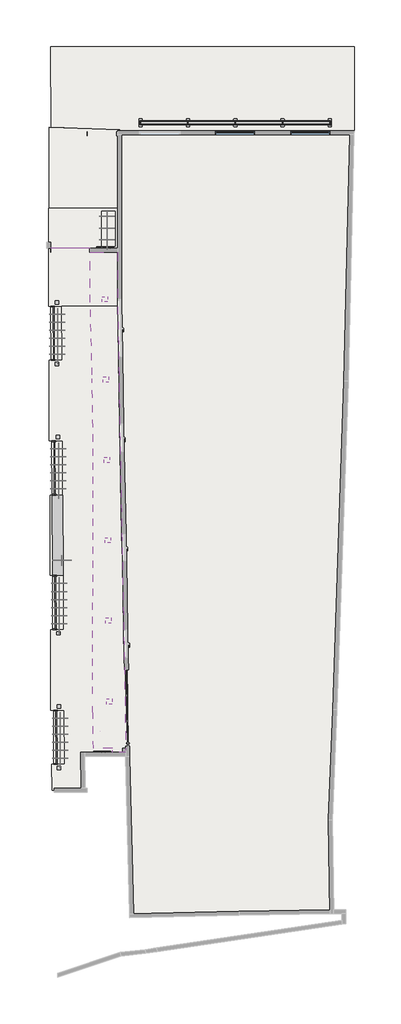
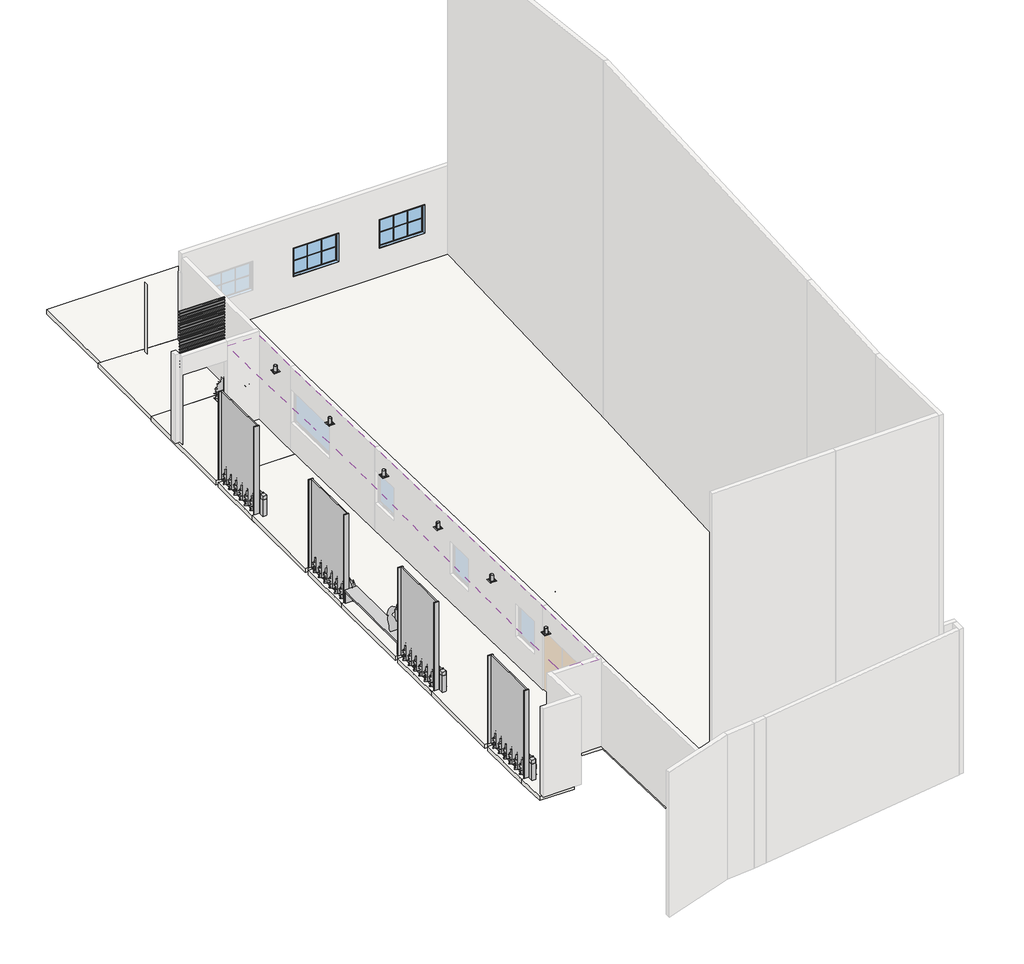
# One storey, part 2 of 2: 28 geographic elements, 13 light fixtures, 7 proxies, 7 slabs, 2 furniture elements, 2 windows, 1 covering.
"""IFC4 building model written with IfcOpenShell, lengths in millimetres."""

from ifc_helpers import new_model, si_unit, point, frame, frame_2d, origin, place, context, project, spatial, polyline, circle_curve, trimmed, segment, composite_curve, outline, extrude, transform, mapped, element, save
from components import generic_models_df8df36a, generic_models_93583ba9, generic_models_38a1cd1e, generic_models_123b7c30, generic_models_0f655083, brise_soleil_brise_soleil_b8130995, vidro_preto_vidro_preto_6965ab44, furniture_6839242c, geographic_element_40c43d6f, geographic_element_03ca2083, light_fixture_30efc9ad, light_fixture_9f0ce8a0, light_fixture_120v_2dcb9a91, light_fixture_200x200x191mm_86722caf, janela_madeira_1_50_x_1_10_0449b646

model = new_model("IFC4")

# Units and contexts
model_context = context("Model", 3, world=origin())
ifc_project = project(units=[si_unit("LENGTHUNIT", "METRE", prefix="MILLI")], contexts=[model_context])

# Site, building, storey
site = spatial("IfcSite", under=ifc_project)
building = spatial("IfcBuilding", under=site)
storey = spatial("IfcBuildingStorey", under=building, Name="Pav. Térreo", Elevation=0.0)

# Proxies
placement = place(None, origin())
generic_models_shape = generic_models_df8df36a(model_context)
element("IfcBuildingElementProxy", 1, Name="RIPAS ALUMINIO : RIPAS ALUMINIO", ObjectType="RIPAS ALUMINIO : RIPAS ALUMINIO", at=placement, inside=storey, context=model_context, shape_type="MappedRepresentation", body=[
    mapped(generic_models_shape, transform((0.0, 0.0, 0.0), x_axis=(1.0, 0.0, 0.0), y_axis=(0.0, 1.0, 0.0), z_axis=(0.0, 0.0, 1.0))),
])
generic_models_2_shape = generic_models_93583ba9(model_context)
element("IfcBuildingElementProxy", 2, Name="CAIXA JARDIM VERTICAL 1 : CAIXA JARDIM VERTICAL 1", ObjectType="CAIXA JARDIM VERTICAL 1 : CAIXA JARDIM VERTICAL 1", at=placement, inside=storey, context=model_context, shape_type="MappedRepresentation", body=[
    mapped(generic_models_2_shape, transform((0.0, 0.0, 0.0), x_axis=(1.0, 0.0, 0.0), y_axis=(0.0, 1.0, 0.0), z_axis=(0.0, 0.0, 1.0))),
])
generic_models_3_shape = generic_models_38a1cd1e(model_context)
element("IfcBuildingElementProxy", 3, Name="CAIXA JARDIM VERTICAL 2 : CAIXA JARDIM VERTICAL 1", ObjectType="CAIXA JARDIM VERTICAL 2 : CAIXA JARDIM VERTICAL 1", at=placement, inside=storey, context=model_context, shape_type="MappedRepresentation", body=[
    mapped(generic_models_3_shape, transform((0.0, 0.0, 0.0), x_axis=(1.0, 0.0, 0.0), y_axis=(0.0, 1.0, 0.0), z_axis=(0.0, 0.0, 1.0))),
])
generic_models_4_shape = generic_models_123b7c30(model_context)
element("IfcBuildingElementProxy", 4, Name="CAIXA JARDIM VERTICAL 3 : CAIXA JARDIM VERTICAL 1", ObjectType="CAIXA JARDIM VERTICAL 3 : CAIXA JARDIM VERTICAL 1", at=placement, inside=storey, context=model_context, shape_type="MappedRepresentation", body=[
    mapped(generic_models_4_shape, transform((0.0, 0.0, 0.0), x_axis=(1.0, 0.0, 0.0), y_axis=(0.0, 1.0, 0.0), z_axis=(0.0, 0.0, 1.0))),
])
generic_models_5_shape = generic_models_0f655083(model_context)
element("IfcBuildingElementProxy", 5, Name="CAIXA JARDIM VERTICAL 4 : CAIXA JARDIM VERTICAL 1", ObjectType="CAIXA JARDIM VERTICAL 4 : CAIXA JARDIM VERTICAL 1", at=placement, inside=storey, context=model_context, shape_type="MappedRepresentation", body=[
    mapped(generic_models_5_shape, transform((0.0, 0.0, 0.0), x_axis=(1.0, 0.0, 0.0), y_axis=(0.0, 1.0, 0.0), z_axis=(0.0, 0.0, 1.0))),
])
brise_soleil_brise_soleil_shape = brise_soleil_brise_soleil_b8130995(model_context)
element("IfcBuildingElementProxy", 6, Name="Brise soleil : Brise soleil", ObjectType="Brise soleil : Brise soleil", at=placement, inside=storey, context=model_context, shape_type="MappedRepresentation", body=[
    mapped(brise_soleil_brise_soleil_shape, transform((-1223.3329672, 15925.6082832, 999.05), x_axis=(0.9999993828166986, -0.0011110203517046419, 0.0), y_axis=(0.0, 0.0, -1.0), z_axis=(0.0011110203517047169, 0.9999993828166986, 0.0))),
])
vidro_preto_vidro_preto_shape = vidro_preto_vidro_preto_6965ab44(model_context)
element("IfcBuildingElementProxy", 7, Name="VIDRO PRETO : VIDRO PRETO", ObjectType="VIDRO PRETO : VIDRO PRETO", at=placement, inside=storey, context=model_context, shape_type="MappedRepresentation", body=[
    mapped(vidro_preto_vidro_preto_shape, transform((0.0, 0.0, 0.0), x_axis=(1.0, 0.0, 0.0), y_axis=(0.0, 1.0, 0.0), z_axis=(0.0, 0.0, 1.0))),
])

# Covering
element("IfcCovering", 8, ObjectType="0.05 m", at=placement, inside=storey, context=model_context, shape_type="SweptSolid", body=[
    extrude(outline(polyline([(-3104.0935193, 12035.2417838), (-2070.445344, 12035.2417838), (-2070.445344, 10015.2417838), (-2024.677589, 7755.7052577), (-1988.873365, 5309.5212171), (-1890.8574649, 470.5137896), (-1794.9587577, -4564.6347859), (-1767.5474338, -6485.5641005), (-1767.5474338, -6635.5641005), (-2264.5605234, -6635.5641005), (-2264.5605234, -6485.5641005), (-2974.9848957, -6485.5641005), (-2989.3393025, -5385.6577631), (-3000.2826987, -4450.0053435), (-2984.8218963, 4962.2752664), (-3021.1599648, 7161.9751424), (-3021.1599648, 7461.9751424), (-3104.0935193, 10718.913473), (-3104.0935193, 12035.2417838)]), holes=[composite_curve([segment(trimmed(circle_curve(frame_2d((-2549.553768, 10285.2417838)), 52.0), [point((-2601.553768, 10285.2417838))], [point((-2497.553768, 10285.2417838))], True, "CARTESIAN"), True, "CONTINUOUS"), segment(trimmed(circle_curve(frame_2d((-2549.553768, 10285.2417838)), 52.0), [point((-2497.553768, 10285.2417838))], [point((-2601.553768, 10285.2417838))], True, "CARTESIAN"), True, "CONTINUOUS")], self_intersect=False), composite_curve([segment(trimmed(circle_curve(frame_2d((-2508.8018264, 7285.2417838)), 52.0), [point((-2560.8018264, 7285.2417838))], [point((-2456.8018264, 7285.2417838))], True, "CARTESIAN"), True, "CONTINUOUS"), segment(trimmed(circle_curve(frame_2d((-2508.8018264, 7285.2417838)), 52.0), [point((-2456.8018264, 7285.2417838))], [point((-2560.8018264, 7285.2417838))], True, "CARTESIAN"), True, "CONTINUOUS")], self_intersect=False), composite_curve([segment(trimmed(circle_curve(frame_2d((-2469.8054751, 4285.2417838)), 52.0), [point((-2521.8054751, 4285.2417838))], [point((-2417.8054751, 4285.2417838))], True, "CARTESIAN"), True, "CONTINUOUS"), segment(trimmed(circle_curve(frame_2d((-2469.8054751, 4285.2417838)), 52.0), [point((-2417.8054751, 4285.2417838))], [point((-2521.8054751, 4285.2417838))], True, "CARTESIAN"), True, "CONTINUOUS")], self_intersect=False), composite_curve([segment(trimmed(circle_curve(frame_2d((-2435.3611439, 1285.2417838)), 52.0), [point((-2487.3611439, 1285.2417838))], [point((-2383.3611439, 1285.2417838))], True, "CARTESIAN"), True, "CONTINUOUS"), segment(trimmed(circle_curve(frame_2d((-2435.3611439, 1285.2417838)), 52.0), [point((-2383.3611439, 1285.2417838))], [point((-2487.3611439, 1285.2417838))], True, "CARTESIAN"), True, "CONTINUOUS")], self_intersect=False), composite_curve([segment(trimmed(circle_curve(frame_2d((-2414.8694662, -1714.7582162)), 52.0), [point((-2466.8694662, -1714.7582162))], [point((-2362.8694662, -1714.7582162))], True, "CARTESIAN"), True, "CONTINUOUS"), segment(trimmed(circle_curve(frame_2d((-2414.8694662, -1714.7582162)), 52.0), [point((-2362.8694662, -1714.7582162))], [point((-2466.8694662, -1714.7582162))], True, "CARTESIAN"), True, "CONTINUOUS")], self_intersect=False), composite_curve([segment(trimmed(circle_curve(frame_2d((-2383.2175342, -4735.5641005)), 52.0), [point((-2435.2175342, -4735.5641005))], [point((-2331.2175342, -4735.5641005))], True, "CARTESIAN"), True, "CONTINUOUS"), segment(trimmed(circle_curve(frame_2d((-2383.2175342, -4735.5641005)), 52.0), [point((-2331.2175342, -4735.5641005))], [point((-2435.2175342, -4735.5641005))], True, "CARTESIAN"), True, "CONTINUOUS")], self_intersect=False)]), frame((0.0, 0.0, 2900.0), z_axis=(0.0, 0.0, 1.0), x_axis=(1.0, 0.0, 0.0)), (0.0, 0.0, 1.0), 30.0),
])

# Furniture
furniture_shape = furniture_6839242c(model_context)
element("IfcFurniture", 9, ObjectType="Logomarca para revit VERTICAL menor : Logomarca para revit VERTICAL menor", at=placement, inside=storey, context=model_context, shape_type="MappedRepresentation", body=[
    mapped(furniture_shape, transform((-2658.3298551, -6585.5641005, 810.0), x_axis=(-1.0, 0.0, 0.0), y_axis=(0.0, -1.0, 0.0), z_axis=(0.0, 0.0, 1.0))),
])
element("IfcFurniture", 10, ObjectType="Logomarca para revit VERTICAL menor : Logomarca para revit VERTICAL menor", at=placement, inside=storey, context=model_context, shape_type="MappedRepresentation", body=[
    mapped(furniture_shape, transform((-2550.8224756, 12245.2417838, 800.0), x_axis=(-1.0, 0.0, 0.0), y_axis=(0.0, -1.0, 0.0), z_axis=(0.0, 0.0, 1.0))),
])

# Geographic elements
geographic_element_shape = geographic_element_40c43d6f(model_context)
element("IfcGeographicElement", 11, ObjectType="Árvore - Caduca : Arbusto", at=placement, inside=storey, context=model_context, shape_type="MappedRepresentation", body=[
    mapped(geographic_element_shape, transform((-4260.6388179, 9733.933967, -100.0), x_axis=(1.0, 0.0, 0.0), y_axis=(0.0, 1.0, 0.0), z_axis=(0.0, 0.0, 1.0))),
])
element("IfcGeographicElement", 12, ObjectType="Árvore - Caduca : Arbusto", at=placement, inside=storey, context=model_context, shape_type="MappedRepresentation", body=[
    mapped(geographic_element_shape, transform((-4260.6388179, 9433.933967, -100.0), x_axis=(1.0, 0.0, 0.0), y_axis=(0.0, 1.0, 0.0), z_axis=(0.0, 0.0, 1.0))),
])
element("IfcGeographicElement", 13, ObjectType="Árvore - Caduca : Arbusto", at=placement, inside=storey, context=model_context, shape_type="MappedRepresentation", body=[
    mapped(geographic_element_shape, transform((-4260.6388179, 9133.933967, -100.0), x_axis=(1.0, 0.0, 0.0), y_axis=(0.0, 1.0, 0.0), z_axis=(0.0, 0.0, 1.0))),
])
element("IfcGeographicElement", 14, ObjectType="Árvore - Caduca : Arbusto", at=placement, inside=storey, context=model_context, shape_type="MappedRepresentation", body=[
    mapped(geographic_element_shape, transform((-4260.6388179, 8833.933967, -100.0), x_axis=(1.0, 0.0, 0.0), y_axis=(0.0, 1.0, 0.0), z_axis=(0.0, 0.0, 1.0))),
])
element("IfcGeographicElement", 15, ObjectType="Árvore - Caduca : Arbusto", at=placement, inside=storey, context=model_context, shape_type="MappedRepresentation", body=[
    mapped(geographic_element_shape, transform((-4260.6388179, 8533.933967, -100.0), x_axis=(1.0, 0.0, 0.0), y_axis=(0.0, 1.0, 0.0), z_axis=(0.0, 0.0, 1.0))),
])
element("IfcGeographicElement", 16, ObjectType="Árvore - Caduca : Arbusto", at=placement, inside=storey, context=model_context, shape_type="MappedRepresentation", body=[
    mapped(geographic_element_shape, transform((-4260.6388179, 8233.933967, -100.0), x_axis=(1.0, 0.0, 0.0), y_axis=(0.0, 1.0, 0.0), z_axis=(0.0, 0.0, 1.0))),
])
element("IfcGeographicElement", 17, ObjectType="Árvore - Caduca : Arbusto", at=placement, inside=storey, context=model_context, shape_type="MappedRepresentation", body=[
    mapped(geographic_element_shape, transform((-4229.6143952, 4703.933967, -100.0), x_axis=(1.0, 0.0, 0.0), y_axis=(0.0, 1.0, 0.0), z_axis=(0.0, 0.0, 1.0))),
])
element("IfcGeographicElement", 18, ObjectType="Árvore - Caduca : Arbusto", at=placement, inside=storey, context=model_context, shape_type="MappedRepresentation", body=[
    mapped(geographic_element_shape, transform((-4229.6143952, 4403.933967, -100.0), x_axis=(1.0, 0.0, 0.0), y_axis=(0.0, 1.0, 0.0), z_axis=(0.0, 0.0, 1.0))),
])
element("IfcGeographicElement", 19, ObjectType="Árvore - Caduca : Arbusto", at=placement, inside=storey, context=model_context, shape_type="MappedRepresentation", body=[
    mapped(geographic_element_shape, transform((-4229.6143952, 4103.933967, -100.0), x_axis=(1.0, 0.0, 0.0), y_axis=(0.0, 1.0, 0.0), z_axis=(0.0, 0.0, 1.0))),
])
element("IfcGeographicElement", 20, ObjectType="Árvore - Caduca : Arbusto", at=placement, inside=storey, context=model_context, shape_type="MappedRepresentation", body=[
    mapped(geographic_element_shape, transform((-4229.6143952, 3803.933967, -100.0), x_axis=(1.0, 0.0, 0.0), y_axis=(0.0, 1.0, 0.0), z_axis=(0.0, 0.0, 1.0))),
])
element("IfcGeographicElement", 21, ObjectType="Árvore - Caduca : Arbusto", at=placement, inside=storey, context=model_context, shape_type="MappedRepresentation", body=[
    mapped(geographic_element_shape, transform((-4229.6143952, 3503.933967, -100.0), x_axis=(1.0, 0.0, 0.0), y_axis=(0.0, 1.0, 0.0), z_axis=(0.0, 0.0, 1.0))),
])
element("IfcGeographicElement", 22, ObjectType="Árvore - Caduca : Arbusto", at=placement, inside=storey, context=model_context, shape_type="MappedRepresentation", body=[
    mapped(geographic_element_shape, transform((-4229.6143952, 3203.933967, -100.0), x_axis=(1.0, 0.0, 0.0), y_axis=(0.0, 1.0, 0.0), z_axis=(0.0, 0.0, 1.0))),
])
element("IfcGeographicElement", 23, ObjectType="Árvore - Caduca : Arbusto", at=placement, inside=storey, context=model_context, shape_type="MappedRepresentation", body=[
    mapped(geographic_element_shape, transform((-4198.5899726, -326.066033, -100.0), x_axis=(1.0, 0.0, 0.0), y_axis=(0.0, 1.0, 0.0), z_axis=(0.0, 0.0, 1.0))),
])
element("IfcGeographicElement", 24, ObjectType="Árvore - Caduca : Arbusto", at=placement, inside=storey, context=model_context, shape_type="MappedRepresentation", body=[
    mapped(geographic_element_shape, transform((-4198.5899726, -626.066033, -100.0), x_axis=(1.0, 0.0, 0.0), y_axis=(0.0, 1.0, 0.0), z_axis=(0.0, 0.0, 1.0))),
])
element("IfcGeographicElement", 25, ObjectType="Árvore - Caduca : Arbusto", at=placement, inside=storey, context=model_context, shape_type="MappedRepresentation", body=[
    mapped(geographic_element_shape, transform((-4198.5899726, -926.066033, -100.0), x_axis=(1.0, 0.0, 0.0), y_axis=(0.0, 1.0, 0.0), z_axis=(0.0, 0.0, 1.0))),
])
element("IfcGeographicElement", 26, ObjectType="Árvore - Caduca : Arbusto", at=placement, inside=storey, context=model_context, shape_type="MappedRepresentation", body=[
    mapped(geographic_element_shape, transform((-4198.5899726, -1226.066033, -100.0), x_axis=(1.0, 0.0, 0.0), y_axis=(0.0, 1.0, 0.0), z_axis=(0.0, 0.0, 1.0))),
])
element("IfcGeographicElement", 27, ObjectType="Árvore - Caduca : Arbusto", at=placement, inside=storey, context=model_context, shape_type="MappedRepresentation", body=[
    mapped(geographic_element_shape, transform((-4198.5899726, -1526.066033, -100.0), x_axis=(1.0, 0.0, 0.0), y_axis=(0.0, 1.0, 0.0), z_axis=(0.0, 0.0, 1.0))),
])
element("IfcGeographicElement", 28, ObjectType="Árvore - Caduca : Arbusto", at=placement, inside=storey, context=model_context, shape_type="MappedRepresentation", body=[
    mapped(geographic_element_shape, transform((-4198.5899726, -1826.066033, -100.0), x_axis=(1.0, 0.0, 0.0), y_axis=(0.0, 1.0, 0.0), z_axis=(0.0, 0.0, 1.0))),
])
element("IfcGeographicElement", 29, ObjectType="Árvore - Caduca : Arbusto", at=placement, inside=storey, context=model_context, shape_type="MappedRepresentation", body=[
    mapped(geographic_element_shape, transform((-4162.6394706, -5356.066033, -100.0), x_axis=(1.0, 0.0, 0.0), y_axis=(0.0, 1.0, 0.0), z_axis=(0.0, 0.0, 1.0))),
])
element("IfcGeographicElement", 30, ObjectType="Árvore - Caduca : Arbusto", at=placement, inside=storey, context=model_context, shape_type="MappedRepresentation", body=[
    mapped(geographic_element_shape, transform((-4162.6394706, -5656.066033, -100.0), x_axis=(1.0, 0.0, 0.0), y_axis=(0.0, 1.0, 0.0), z_axis=(0.0, 0.0, 1.0))),
])
element("IfcGeographicElement", 31, ObjectType="Árvore - Caduca : Arbusto", at=placement, inside=storey, context=model_context, shape_type="MappedRepresentation", body=[
    mapped(geographic_element_shape, transform((-4162.6394706, -5956.066033, -100.0), x_axis=(1.0, 0.0, 0.0), y_axis=(0.0, 1.0, 0.0), z_axis=(0.0, 0.0, 1.0))),
])
element("IfcGeographicElement", 32, ObjectType="Árvore - Caduca : Arbusto", at=placement, inside=storey, context=model_context, shape_type="MappedRepresentation", body=[
    mapped(geographic_element_shape, transform((-4162.6394706, -6256.066033, -100.0), x_axis=(1.0, 0.0, 0.0), y_axis=(0.0, 1.0, 0.0), z_axis=(0.0, 0.0, 1.0))),
])
element("IfcGeographicElement", 33, ObjectType="Árvore - Caduca : Arbusto", at=placement, inside=storey, context=model_context, shape_type="MappedRepresentation", body=[
    mapped(geographic_element_shape, transform((-4162.6394706, -6556.066033, -100.0), x_axis=(1.0, 0.0, 0.0), y_axis=(0.0, 1.0, 0.0), z_axis=(0.0, 0.0, 1.0))),
])
element("IfcGeographicElement", 34, ObjectType="Árvore - Caduca : Arbusto", at=placement, inside=storey, context=model_context, shape_type="MappedRepresentation", body=[
    mapped(geographic_element_shape, transform((-4162.6394706, -6856.066033, -100.0), x_axis=(1.0, 0.0, 0.0), y_axis=(0.0, 1.0, 0.0), z_axis=(0.0, 0.0, 1.0))),
])
element("IfcGeographicElement", 35, ObjectType="Árvore - Caduca : Arbusto", at=placement, inside=storey, context=model_context, shape_type="MappedRepresentation", body=[
    mapped(geographic_element_shape, transform((-2408.7982129, 13385.2417608, 0.0), x_axis=(1.0, 0.0, 0.0), y_axis=(0.0, 1.0, 0.0), z_axis=(0.0, 0.0, 1.0))),
])
element("IfcGeographicElement", 36, ObjectType="Árvore - Caduca : Arbusto", at=placement, inside=storey, context=model_context, shape_type="MappedRepresentation", body=[
    mapped(geographic_element_shape, transform((-2408.7982129, 12945.2417608, 0.0), x_axis=(1.0, 0.0, 0.0), y_axis=(0.0, 1.0, 0.0), z_axis=(0.0, 0.0, 1.0))),
])
element("IfcGeographicElement", 37, ObjectType="Árvore - Caduca : Arbusto", at=placement, inside=storey, context=model_context, shape_type="MappedRepresentation", body=[
    mapped(geographic_element_shape, transform((-2408.7982129, 12505.2417608, 0.0), x_axis=(1.0, 0.0, 0.0), y_axis=(0.0, 1.0, 0.0), z_axis=(0.0, 0.0, 1.0))),
])
geographic_element_2_shape = geographic_element_03ca2083(model_context)
element("IfcGeographicElement", 38, ObjectType="Árvore - Caduca : Pessoa sentada", at=placement, inside=storey, context=model_context, shape_type="MappedRepresentation", body=[
    mapped(geographic_element_2_shape, transform((-4020.9936335, 538.1916347, 10.0), x_axis=(0.0, -1.0000000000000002, 0.0), y_axis=(1.0000000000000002, 0.0, 0.0), z_axis=(0.0, 0.0, 1.0))),
])

# Light fixtures
light_fixture_shape = light_fixture_30efc9ad(model_context)
element("IfcLightFixture", 39, ObjectType="Iluminação de caminho - Poste quadrado 1 : Iluminação de caminho - Poste quadrado 1", at=placement, inside=storey, context=model_context, shape_type="MappedRepresentation", body=[
    mapped(light_fixture_shape, transform((-4255.3228068, -4924.721632, -100.0), x_axis=(1.0, 0.0, 0.0), y_axis=(0.0, 1.0, 0.0), z_axis=(0.0, 0.0, 1.0))),
])
element("IfcLightFixture", 40, ObjectType="Iluminação de caminho - Poste quadrado 1 : Iluminação de caminho - Poste quadrado 1", at=placement, inside=storey, context=model_context, shape_type="MappedRepresentation", body=[
    mapped(light_fixture_shape, transform((-4306.3472294, 5135.278368, 10.0), x_axis=(1.0, 0.0, 0.0), y_axis=(0.0, 1.0, 0.0), z_axis=(0.0, 0.0, 1.0))),
])
element("IfcLightFixture", 41, ObjectType="Iluminação de caminho - Poste quadrado 1 : Iluminação de caminho - Poste quadrado 1", at=placement, inside=storey, context=model_context, shape_type="MappedRepresentation", body=[
    mapped(light_fixture_shape, transform((-4337.371652, 10165.278368, 0.0), x_axis=(1.0, 0.0, 0.0), y_axis=(0.0, 1.0, 0.0), z_axis=(0.0, 0.0, 1.0))),
])
light_fixture_2_shape = light_fixture_9f0ce8a0(model_context)
element("IfcLightFixture", 42, ObjectType="Iluminação de caminho - Poste quadrado 1 : Iluminação de caminho - Poste quadrado 1", at=placement, inside=storey, context=model_context, shape_type="MappedRepresentation", body=[
    mapped(light_fixture_2_shape, transform((-4255.3228068, -7214.7948004, 10.0), x_axis=(1.0, 0.0, 0.0), y_axis=(0.0, 1.0, 0.0), z_axis=(0.0, 0.0, 1.0))),
])
element("IfcLightFixture", 43, ObjectType="Iluminação de caminho - Poste quadrado 1 : Iluminação de caminho - Poste quadrado 1", at=placement, inside=storey, context=model_context, shape_type="MappedRepresentation", body=[
    mapped(light_fixture_2_shape, transform((-4275.3228068, -2184.7948004, 10.0), x_axis=(1.0, 0.0, 0.0), y_axis=(0.0, 1.0, 0.0), z_axis=(0.0, 0.0, 1.0))),
])
element("IfcLightFixture", 44, ObjectType="Iluminação de caminho - Poste quadrado 1 : Iluminação de caminho - Poste quadrado 1", at=placement, inside=storey, context=model_context, shape_type="MappedRepresentation", body=[
    mapped(light_fixture_2_shape, transform((-4337.371652, 7875.2051996, 10.0), x_axis=(1.0, 0.0, 0.0), y_axis=(0.0, 1.0, 0.0), z_axis=(0.0, 0.0, 1.0))),
])
light_fixture_120v_shape = light_fixture_120v_2dcb9a91(model_context)
element("IfcLightFixture", 45, ObjectType="M_Iluminação de estúdio : 120V", at=placement, inside=storey, context=model_context, shape_type="MappedRepresentation", body=[
    mapped(light_fixture_120v_shape, transform((-2724.5605234, -5847.1666601, 2710.0), x_axis=(1.0, 0.0, 0.0), y_axis=(0.0, 1.0, 0.0), z_axis=(0.0, 0.0, 1.0))),
])
light_fixture_200x200x191mm_shape = light_fixture_200x200x191mm_86722caf(model_context)
element("IfcLightFixture", 46, ObjectType="Iluminação embutida - Simples : 200x200x191mm", at=placement, inside=storey, context=model_context, shape_type="MappedRepresentation", body=[
    mapped(light_fixture_200x200x191mm_shape, transform((-2549.553768, 10285.2417838, 461.6), x_axis=(1.0, 0.0, 0.0), y_axis=(0.0, 1.0, 0.0), z_axis=(0.0, 0.0, 1.0))),
])
element("IfcLightFixture", 47, ObjectType="Iluminação embutida - Simples : 200x200x191mm", at=placement, inside=storey, context=model_context, shape_type="MappedRepresentation", body=[
    mapped(light_fixture_200x200x191mm_shape, transform((-2508.8018264, 7285.2417838, 461.6), x_axis=(1.0, 0.0, 0.0), y_axis=(0.0, 1.0, 0.0), z_axis=(0.0, 0.0, 1.0))),
])
element("IfcLightFixture", 48, ObjectType="Iluminação embutida - Simples : 200x200x191mm", at=placement, inside=storey, context=model_context, shape_type="MappedRepresentation", body=[
    mapped(light_fixture_200x200x191mm_shape, transform((-2469.8054751, 4285.2417838, 461.6), x_axis=(1.0, 0.0, 0.0), y_axis=(0.0, 1.0, 0.0), z_axis=(0.0, 0.0, 1.0))),
])
element("IfcLightFixture", 49, ObjectType="Iluminação embutida - Simples : 200x200x191mm", at=placement, inside=storey, context=model_context, shape_type="MappedRepresentation", body=[
    mapped(light_fixture_200x200x191mm_shape, transform((-2435.3611439, 1285.2417838, 461.6), x_axis=(1.0, 0.0, 0.0), y_axis=(0.0, 1.0, 0.0), z_axis=(0.0, 0.0, 1.0))),
])
element("IfcLightFixture", 50, ObjectType="Iluminação embutida - Simples : 200x200x191mm", at=placement, inside=storey, context=model_context, shape_type="MappedRepresentation", body=[
    mapped(light_fixture_200x200x191mm_shape, transform((-2414.8694662, -1714.7582162, 461.6), x_axis=(1.0, 0.0, 0.0), y_axis=(0.0, 1.0, 0.0), z_axis=(0.0, 0.0, 1.0))),
])
element("IfcLightFixture", 51, ObjectType="Iluminação embutida - Simples : 200x200x191mm", at=placement, inside=storey, context=model_context, shape_type="MappedRepresentation", body=[
    mapped(light_fixture_200x200x191mm_shape, transform((-2383.2175342, -4735.5641005, 461.6), x_axis=(1.0, 0.0, 0.0), y_axis=(0.0, 1.0, 0.0), z_axis=(0.0, 0.0, 1.0))),
])

# Slabs
element("IfcSlab", 52, ObjectType="Piso de Cerâmica (0.15m)", at=placement, inside=storey, context=model_context, shape_type="SweptSolid", body=[
    extrude(outline(polyline([(6043.6191771, -5041.7780694), (5886.2740261, -9159.4357574), (5946.0849466, -12586.0010967), (1147.4086604, -12698.7215471), (-1548.4804898, -12741.0181477), (-1703.471109, -6142.8382541), (-1768.8860371, -1847.6881044), (-1910.6445702, 5150.8763567), (-1988.667676, 9915.4427212), (-1988.667676, 13515.4427212), (-1988.667676, 16500.2417608), (6695.6238742, 16500.2417608), (6043.6191771, -5041.7780694)])), frame((0.0, 0.0, -150.0), z_axis=(0.0, 0.0, 1.0), x_axis=(1.0, 0.0, 0.0)), (0.0, 0.0, 1.0), 150.0),
])
element("IfcSlab", 53, ObjectType="Piso de Granito Santa Cecília Levigado", at=placement, inside=storey, context=model_context, shape_type="SweptSolid", body=[
    extrude(outline(polyline([(-1943.6022058, 7675.7667808), (-1907.1500116, 5876.1359194), (-1844.3712327, 2776.7716579), (-1780.3773806, -382.5802989), (-1721.2438211, -3301.9814741), (-1676.9706585, -6404.5538323), (-1676.9706585, -6744.5538323), (-3384.5104024, -6710.5641005), (-3384.5104024, -8050.5641005), (-4509.7092095, -8050.5641005), (-4527.9944563, -7084.7582162), (-4046.3926468, -7084.7582162), (-4060.5454187, -5054.7582162), (-4469.358529, -5054.7582162), (-4567.7896667, -5054.7582162), (-4567.7896667, -2054.7582162), (-4081.460845, -2054.7582162), (-4095.6136168, -24.7582162), (-4505.309031, -24.7582162), (-4598.8140893, -24.7582162), (-4598.8140893, 2975.2417838), (-4116.5290432, 2975.2417838), (-4130.681815, 5005.2417838), (-4536.3334536, 5005.2417838), (-4629.838512, 5005.2417838), (-4629.838512, 8005.2417838), (-4151.5972413, 8005.2417838), (-4165.7500132, 10035.2417838), (-1991.3942519, 10035.2417838), (-1943.6022058, 7675.7667808)])), frame((0.0, 0.0, -140.0), z_axis=(0.0, 0.0, 1.0), x_axis=(1.0, 0.0, 0.0)), (0.0, 0.0, 1.0), 150.0),
])
element("IfcSlab", 54, ObjectType="Piso de Granito Santa Cecília Levigado", at=placement, inside=storey, context=model_context, shape_type="SweptSolid", body=[
    extrude(outline(polyline([(-1998.2684412, 16619.3036125), (-1998.2684412, 13680.2809166), (-4634.6077539, 13680.2809166), (-4634.6077539, 16711.3666099), (-1998.2684412, 16619.3036125)])), frame((0.0, 0.0, -150.0), z_axis=(0.0, 0.0, 1.0), x_axis=(1.0, 0.0, 0.0)), (0.0, 0.0, 1.0), 150.0),
])
element("IfcSlab", 55, ObjectType="Piso de Granito Santa Cecília Levigado", at=placement, inside=storey, context=model_context, shape_type="SweptSolid", body=[
    extrude(outline(polyline([(-1996.5679952, 13680.2809166), (-1996.5679952, 10035.2417838), (-4654.6950573, 10035.2417838), (-4654.6950573, 13680.2809166), (-1996.5679952, 13680.2809166)]), holes=[polyline([(-2171.4997635, 13580.2417838), (-2671.49988, 13580.2417838), (-2671.49988, 12260.2417838), (-2171.4997635, 12260.2417838), (-2171.4997635, 13580.2417838)])]), frame((0.0, 0.0, -150.0), z_axis=(0.0, 0.0, 1.0), x_axis=(1.0, 0.0, 0.0)), (0.0, 0.0, 1.0), 150.0),
])
element("IfcSlab", 56, ObjectType="Grama", at=placement, inside=storey, context=model_context, shape_type="SweptSolid", body=[
    extrude(outline(polyline([(-4165.7500132, 10035.2417838), (-4151.5972413, 8005.2417838), (-4554.8370854, 8005.2417838), (-4567.3578762, 10035.2417838), (-4165.7500132, 10035.2417838)])), frame((0.0, 0.0, -250.0), z_axis=(0.0, 0.0, 1.0), x_axis=(1.0, 0.0, 0.0)), (0.0, 0.0, 1.0), 150.0),
    extrude(outline(polyline([(-4505.309031, -24.7582162), (-4095.6136168, -24.7582162), (-4081.460845, -2054.7582162), (-4492.7882401, -2054.7582162), (-4505.309031, -24.7582162)])), frame((0.0, 0.0, -250.0), z_axis=(0.0, 0.0, 1.0), x_axis=(1.0, 0.0, 0.0)), (0.0, 0.0, 1.0), 150.0),
    extrude(outline(polyline([(-4469.358529, -5054.7582162), (-4060.5454187, -5054.7582162), (-4046.3926468, -7084.7582162), (-4452.9920188, -7084.7582162), (-4469.358529, -5054.7582162)])), frame((0.0, 0.0, -250.0), z_axis=(0.0, 0.0, 1.0), x_axis=(1.0, 0.0, 0.0)), (0.0, 0.0, 1.0), 150.0),
    extrude(outline(polyline([(-4130.681815, 5005.2417838), (-4116.5290432, 2975.2417838), (-4523.8126628, 2975.2417838), (-4536.3334536, 5005.2417838), (-4130.681815, 5005.2417838)])), frame((0.0, 0.0, -250.0), z_axis=(0.0, 0.0, 1.0), x_axis=(1.0, 0.0, 0.0)), (0.0, 0.0, 1.0), 150.0),
])
element("IfcSlab", 57, ObjectType="Grama", at=placement, inside=storey, context=model_context, shape_type="SweptSolid", body=[
    extrude(outline(polyline([(-2671.49988, 13580.2417838), (-2171.4997635, 13580.2417838), (-2170.5989201, 12260.2417838), (-2670.5990366, 12260.2417838), (-2671.49988, 13580.2417838)])), frame((0.0, 0.0, -150.0), z_axis=(0.0, 0.0, 1.0), x_axis=(1.0, 0.0, 0.0)), (0.0, 0.0, 1.0), 150.0),
])
element("IfcSlab", 58, ObjectType="Piso Porcelanato Externo", at=placement, inside=storey, context=model_context, shape_type="SweptSolid", body=[
    extrude(outline(polyline([(6776.0693657, 19725.2417608), (6775.4717123, 16575.2417608), (-2073.6460679, 16575.2417608), (-2073.5755643, 16621.9333952), (-4557.3893645, 16708.6700843), (-4579.4061493, 19725.2417608), (6776.0693657, 19725.2417608)])), frame((0.0, 0.0, -150.0), z_axis=(0.0, 0.0, 1.0), x_axis=(1.0, 0.0, 0.0)), (0.0, 0.0, 1.0), 150.0),
])

# Windows
janela_madeira_1_50_x_1_10_shape = janela_madeira_1_50_x_1_10_0449b646(model_context)
element("IfcWindow", 59, ObjectType="Janela Madeira : 1.50 x 1.10", at=placement, inside=storey, context=model_context, shape_type="MappedRepresentation", body=[
    mapped(janela_madeira_1_50_x_1_10_shape, transform((2321.3539321, 16500.2417608, 0.0), x_axis=(1.0, 0.0, 0.0), y_axis=(0.0, 1.0, 0.0), z_axis=(0.0, 0.0, 1.0))),
])
element("IfcWindow", 60, ObjectType="Janela Madeira : 1.50 x 1.10", at=placement, inside=storey, context=model_context, shape_type="MappedRepresentation", body=[
    mapped(janela_madeira_1_50_x_1_10_shape, transform((5131.3539321, 16500.2417608, 0.0), x_axis=(1.0, 0.0, 0.0), y_axis=(0.0, 1.0, 0.0), z_axis=(0.0, 0.0, 1.0))),
])

save(model, "model.ifc")
